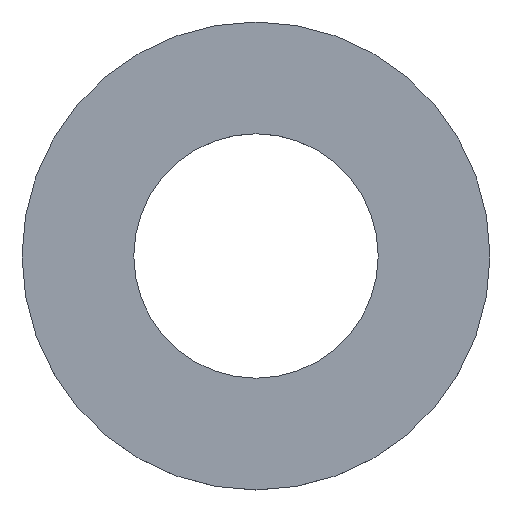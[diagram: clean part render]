
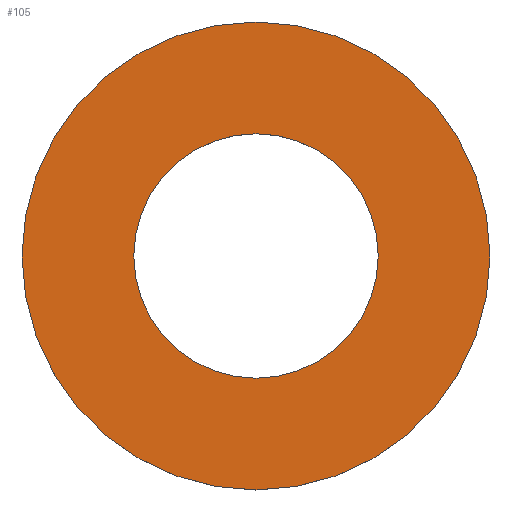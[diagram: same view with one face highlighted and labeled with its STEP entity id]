
A CAD part, top view. The second image highlights one B-rep face of the part: STEP entity #105.
In plain terms, the highlighted planar face has unit normal (0, 0, 1).
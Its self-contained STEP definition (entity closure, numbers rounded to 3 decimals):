
#21 = EDGE_CURVE('',#22,#22,#24,.T.);
#22 = VERTEX_POINT('',#23);
#23 = CARTESIAN_POINT('',(6.03,0.,-8.95));
#24 = SURFACE_CURVE('',#25,(#30,#42),.PCURVE_S1.);
#25 = CIRCLE('',#26,6.03);
#26 = AXIS2_PLACEMENT_3D('',#27,#28,#29);
#27 = CARTESIAN_POINT('',(0.,0.,-8.95));
#28 = DIRECTION('',(0.,0.,1.));
#29 = DIRECTION('',(1.,0.,-0.));
#30 = PCURVE('',#31,#36);
#31 = CYLINDRICAL_SURFACE('',#32,6.03);
#32 = AXIS2_PLACEMENT_3D('',#33,#34,#35);
#33 = CARTESIAN_POINT('',(0.,0.,-9.45));
#34 = DIRECTION('',(0.,0.,1.));
#35 = DIRECTION('',(1.,0.,-0.));
#36 = DEFINITIONAL_REPRESENTATION('',(#37),#41);
#37 = LINE('',#38,#39);
#38 = CARTESIAN_POINT('',(0.,0.5));
#39 = VECTOR('',#40,1.);
#40 = DIRECTION('',(1.,0.));
#41 = ( GEOMETRIC_REPRESENTATION_CONTEXT(2) 
PARAMETRIC_REPRESENTATION_CONTEXT() REPRESENTATION_CONTEXT('2D SPACE',''
  ) );
#42 = PCURVE('',#43,#48);
#43 = PLANE('',#44);
#44 = AXIS2_PLACEMENT_3D('',#45,#46,#47);
#45 = CARTESIAN_POINT('',(0.,0.,-8.95));
#46 = DIRECTION('',(0.,0.,1.));
#47 = DIRECTION('',(1.,0.,-0.));
#48 = DEFINITIONAL_REPRESENTATION('',(#49),#53);
#49 = CIRCLE('',#50,6.03);
#50 = AXIS2_PLACEMENT_2D('',#51,#52);
#51 = CARTESIAN_POINT('',(0.,0.));
#52 = DIRECTION('',(1.,0.));
#53 = ( GEOMETRIC_REPRESENTATION_CONTEXT(2) 
PARAMETRIC_REPRESENTATION_CONTEXT() REPRESENTATION_CONTEXT('2D SPACE',''
  ) );
#105 = ADVANCED_FACE('',(#106,#109),#43,.T.);
#106 = FACE_BOUND('',#107,.T.);
#107 = EDGE_LOOP('',(#108));
#108 = ORIENTED_EDGE('',*,*,#21,.T.);
#109 = FACE_BOUND('',#110,.T.);
#110 = EDGE_LOOP('',(#111));
#111 = ORIENTED_EDGE('',*,*,#112,.F.);
#112 = EDGE_CURVE('',#113,#113,#115,.T.);
#113 = VERTEX_POINT('',#114);
#114 = CARTESIAN_POINT('',(3.15,0.,-8.95));
#115 = SURFACE_CURVE('',#116,(#121,#128),.PCURVE_S1.);
#116 = CIRCLE('',#117,3.15);
#117 = AXIS2_PLACEMENT_3D('',#118,#119,#120);
#118 = CARTESIAN_POINT('',(0.,0.,-8.95));
#119 = DIRECTION('',(0.,0.,1.));
#120 = DIRECTION('',(1.,0.,-0.));
#121 = PCURVE('',#43,#122);
#122 = DEFINITIONAL_REPRESENTATION('',(#123),#127);
#123 = CIRCLE('',#124,3.15);
#124 = AXIS2_PLACEMENT_2D('',#125,#126);
#125 = CARTESIAN_POINT('',(0.,0.));
#126 = DIRECTION('',(1.,0.));
#127 = ( GEOMETRIC_REPRESENTATION_CONTEXT(2) 
PARAMETRIC_REPRESENTATION_CONTEXT() REPRESENTATION_CONTEXT('2D SPACE',''
  ) );
#128 = PCURVE('',#129,#134);
#129 = CYLINDRICAL_SURFACE('',#130,3.15);
#130 = AXIS2_PLACEMENT_3D('',#131,#132,#133);
#131 = CARTESIAN_POINT('',(0.,0.,-9.46));
#132 = DIRECTION('',(0.,0.,1.));
#133 = DIRECTION('',(1.,0.,-0.));
#134 = DEFINITIONAL_REPRESENTATION('',(#135),#139);
#135 = LINE('',#136,#137);
#136 = CARTESIAN_POINT('',(0.,0.51));
#137 = VECTOR('',#138,1.);
#138 = DIRECTION('',(1.,0.));
#139 = ( GEOMETRIC_REPRESENTATION_CONTEXT(2) 
PARAMETRIC_REPRESENTATION_CONTEXT() REPRESENTATION_CONTEXT('2D SPACE',''
  ) );
